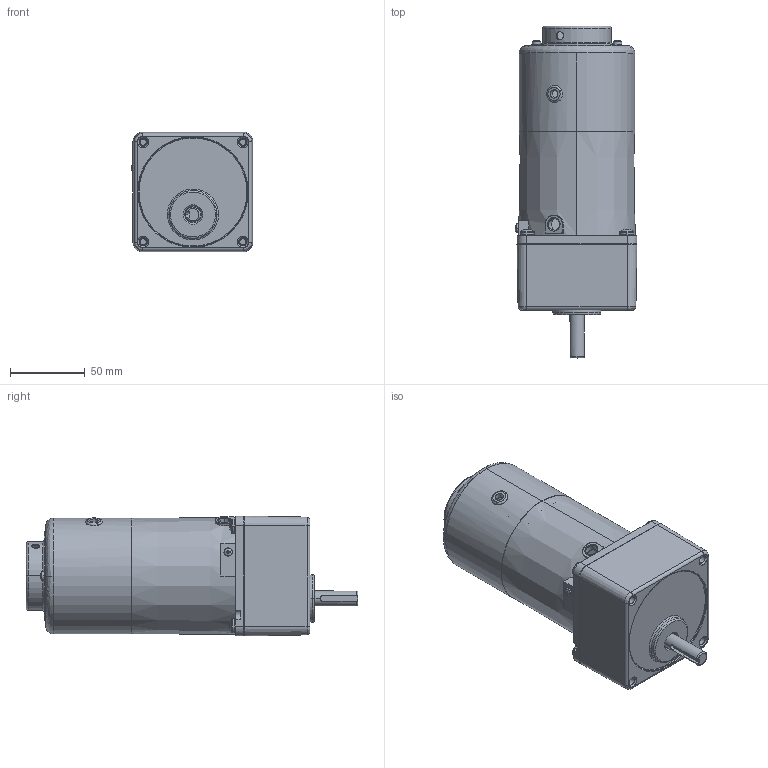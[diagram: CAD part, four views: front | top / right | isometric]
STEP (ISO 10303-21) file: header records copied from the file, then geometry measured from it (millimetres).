
FILE_DESCRIPTION (( 'STEP AP203' ), '1' );
FILE_NAME ('4RK25RGN-CM(4GN3K-200K).STEP', '2020-04-14T08:27:35', ( 'Windows 蚚誧' ), ( '' ), 'SwSTEP 2.0', 'SolidWorks 2019', '' );
FILE_SCHEMA (( 'CONFIG_CONTROL_DESIGN' ));
Length unit declared in the file: millimetre
Products named in the file (17): PRT0212.STEP; PRT0099^3ik15ra-c_asm(2)_70TSZ; PRT0013.STEP; PRT0101^3ik15ra-c_asm(2)_70TSZ; 4RK25GN-CM_4_AF0.STEP; PRT0208.STEP; 3ik15ra-c_asm(2)^70TSZ; 4RK25GN-CM-4GN3K-200K_ASM_1_AF0_ASM.STEP; ASM0007_ASM.STEP; PRT0209.STEP; PRT0014.STEP; PRT0211.STEP; 4RK25GN-CM(4GN3K-200K).STEP; 70TSZ; PRT0210.STEP; 3IK15RA-C_AF0^3ik15ra-c_asm(2)_70TSZ; 4RK25RGN-CM(4GN3K-200K)
Assembly tree (19 placements, depth 5):
  4RK25RGN-CM(4GN3K-200K)
    4RK25GN-CM(4GN3K-200K).STEP
      ASM0007_ASM.STEP
        4RK25GN-CM-4GN3K-200K_ASM_1_AF0_ASM.STEP
          4RK25GN-CM_4_AF0.STEP
        PRT0209.STEP
        PRT0211.STEP
        PRT0210.STEP
        PRT0212.STEP  x4
        PRT0013.STEP
        PRT0208.STEP
      PRT0014.STEP
    70TSZ
      3ik15ra-c_asm(2)^70TSZ
        3IK15RA-C_AF0^3ik15ra-c_asm(2)_70TSZ
        PRT0099^3ik15ra-c_asm(2)_70TSZ
        PRT0101^3ik15ra-c_asm(2)_70TSZ
Bounding box: 81.32 x 221.3 x 80 mm (x, y, z)
Volume: 433515.3 mm3; surface area: 132933 mm2
Topology: 14 solids, 14 shells, 1651 faces, 3690 edges, 2087 vertices
Faces by surface type: cone 826, cylinder 471, plane 248, bspline 90, torus 12, sphere 4
Entity records: 37250 total; most frequent: CARTESIAN_POINT 9623, DIRECTION 5832, ORIENTED_EDGE 5206, EDGE_CURVE 2603, AXIS2_PLACEMENT_3D 2384, VERTEX_POINT 1526, CIRCLE 1300, EDGE_LOOP 1197
